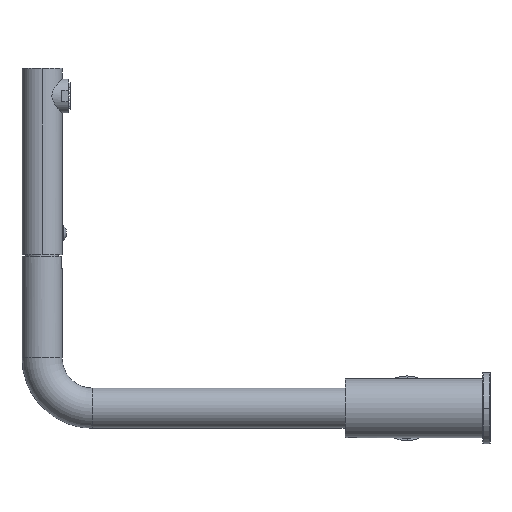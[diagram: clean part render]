
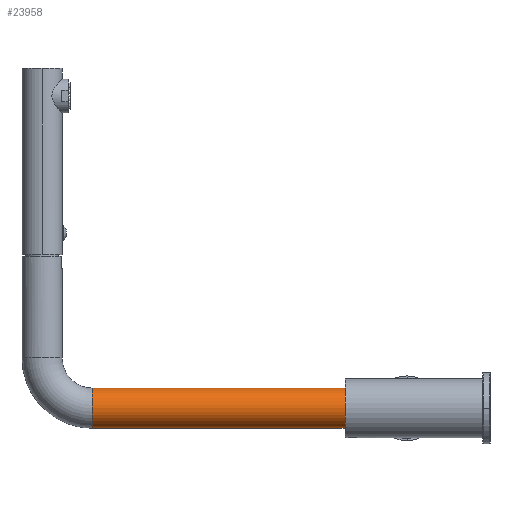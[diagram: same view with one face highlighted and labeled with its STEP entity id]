
A CAD part, left-side view. The second image highlights one B-rep face of the part: STEP entity #23958.
In plain terms, the highlighted cylindrical face has radius 14 mm (diameter 28 mm), a partial arc.
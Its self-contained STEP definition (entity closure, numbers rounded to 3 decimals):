
#23584=CARTESIAN_POINT('',(0.,98.,0.));
#23585=DIRECTION('',(0.,-1.,0.));
#23586=DIRECTION('',(0.,0.,1.));
#23587=AXIS2_PLACEMENT_3D('',#23584,#23585,#23586);
#23604=CARTESIAN_POINT('',(0.,274.,0.));
#23605=DIRECTION('',(0.,-1.,0.));
#23606=DIRECTION('',(0.,0.,1.));
#23607=AXIS2_PLACEMENT_3D('',#23604,#23605,#23606);
#23609=DIRECTION('',(0.,-1.,0.));
#23610=VECTOR('',#23609,176.);
#23611=CARTESIAN_POINT('',(0.,274.,14.));
#23612=LINE('',#23611,#23610);
#23807=DIRECTION('',(0.,-1.,0.));
#23808=VECTOR('',#23807,176.);
#23809=CARTESIAN_POINT('',(0.,274.,-14.));
#23810=LINE('',#23809,#23808);
#23825=CARTESIAN_POINT('',(0.,274.,14.));
#23826=CARTESIAN_POINT('',(0.,274.,-14.));
#23827=VERTEX_POINT('',#23825);
#23828=VERTEX_POINT('',#23826);
#23833=CARTESIAN_POINT('',(0.,98.,14.));
#23834=CARTESIAN_POINT('',(0.,98.,-14.));
#23835=VERTEX_POINT('',#23833);
#23836=VERTEX_POINT('',#23834);
#23944=CARTESIAN_POINT('',(0.,274.,0.));
#23945=DIRECTION('',(0.,-1.,0.));
#23946=DIRECTION('',(0.,0.,1.));
#23947=AXIS2_PLACEMENT_3D('',#23944,#23945,#23946);
#23948=CYLINDRICAL_SURFACE('',#23947,14.);
#23950=ORIENTED_EDGE('',*,*,#23949,.F.);
#23952=ORIENTED_EDGE('',*,*,#23951,.T.);
#23953=ORIENTED_EDGE('',*,*,#23932,.T.);
#23955=ORIENTED_EDGE('',*,*,#23954,.F.);
#23956=EDGE_LOOP('',(#23950,#23952,#23953,#23955));
#23957=FACE_OUTER_BOUND('',#23956,.F.);
#23958=ADVANCED_FACE('',(#23957),#23948,.T.);
#23588=CIRCLE('',#23587,14.);
#23608=CIRCLE('',#23607,14.);
#23932=EDGE_CURVE('',#23835,#23836,#23588,.T.);
#23949=EDGE_CURVE('',#23827,#23828,#23608,.T.);
#23951=EDGE_CURVE('',#23827,#23835,#23612,.T.);
#23954=EDGE_CURVE('',#23828,#23836,#23810,.T.);
